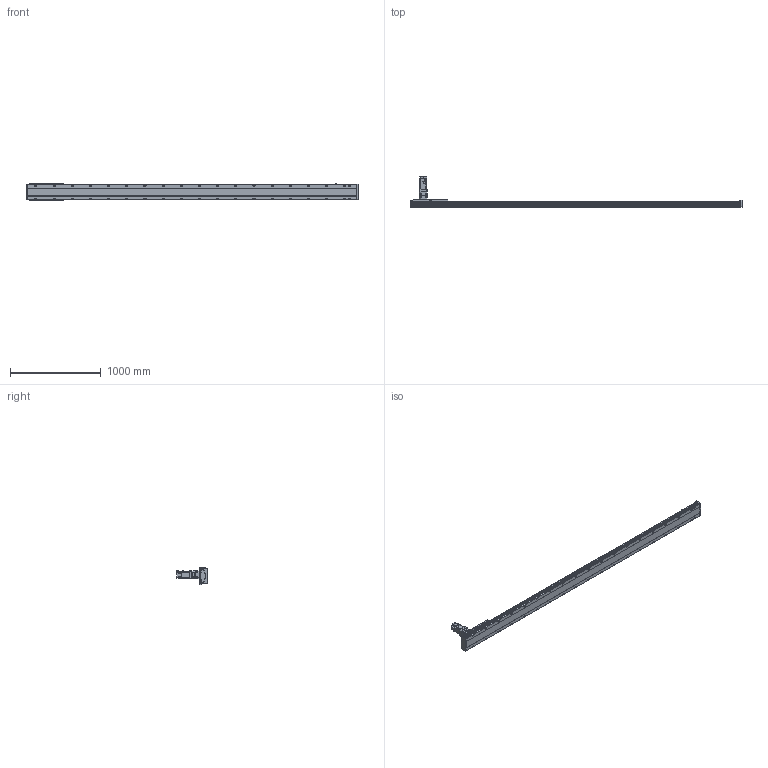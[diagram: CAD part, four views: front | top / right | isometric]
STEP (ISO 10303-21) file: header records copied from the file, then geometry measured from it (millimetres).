
FILE_DESCRIPTION(/* description */ ('STEP AP203'),/* implementation_level */ '2;1');
FILE_NAME(/* name */ 'SHS17A-L13-S3200-BC-T75-C1-N(0)',/* time_stamp */ '2023-03-27T08:58:36+02:00',/* author */ ('License CC BY-ND 4.0'),/* organization */ ('CADENAS'),/* preprocessor_version */ 'ST-DEVELOPER v19.3',/* originating_system */ 'PARTsolutions',/* authorisation */ ' ');
FILE_SCHEMA (('CONFIG_CONTROL_DESIGN'));
Length unit declared in the file: millimetre
Products named in the file (7): SHS17A-L13-S3200-BC-T75-C1-N(0); PSC140-sensor; SHS17A-S3200(0)_body2; T75-p1; SHS17A-S3200_body3; SHS17A-S3200-C1(0)_slider; SHS17A-S3200-C1(0)_body
Assembly tree (13 placements, depth 2):
  SHS17A-L13-S3200-BC-T75-C1-N(0)
    PSC140-sensor  x3
    SHS17A-S3200(0)_body2  x6
    T75-p1
    SHS17A-S3200_body3
    SHS17A-S3200-C1(0)_slider
    SHS17A-S3200-C1(0)_body
Bounding box: 3654 x 333.8 x 193.4 mm (x, y, z)
Volume: 25446326.4 mm3; surface area: 2936030.6 mm2
Topology: 13 solids, 13 shells, 2264 faces, 5766 edges, 3755 vertices
Faces by surface type: plane 1416, cylinder 753, cone 92, torus 3
Full cylindrical faces by diameter (mm): 2.8 x3, 4.134 x24, 4.5 x2, 4.6 x3, 4.917 x15, 5.5 x48, 6 x7, 6.5 x24, 6.647 x46, 6.8 x9, 8 x3, 8.5 x38, 10 x28, 11 x4, 14 x38, 22 x1, 24 x1, 24.2 x1, 28 x1, 28.2 x1, 28.8 x1, 29.8 x1, 48.542 x1, 68 x1, 70 x1, 78 x1, 80 x2
Entity records: 44738 total; most frequent: CARTESIAN_POINT 8858, DIRECTION 7273, ORIENTED_EDGE 7028, EDGE_CURVE 3514, AXIS2_PLACEMENT_3D 2584, VERTEX_POINT 2473, LINE 2105, VECTOR 2105
